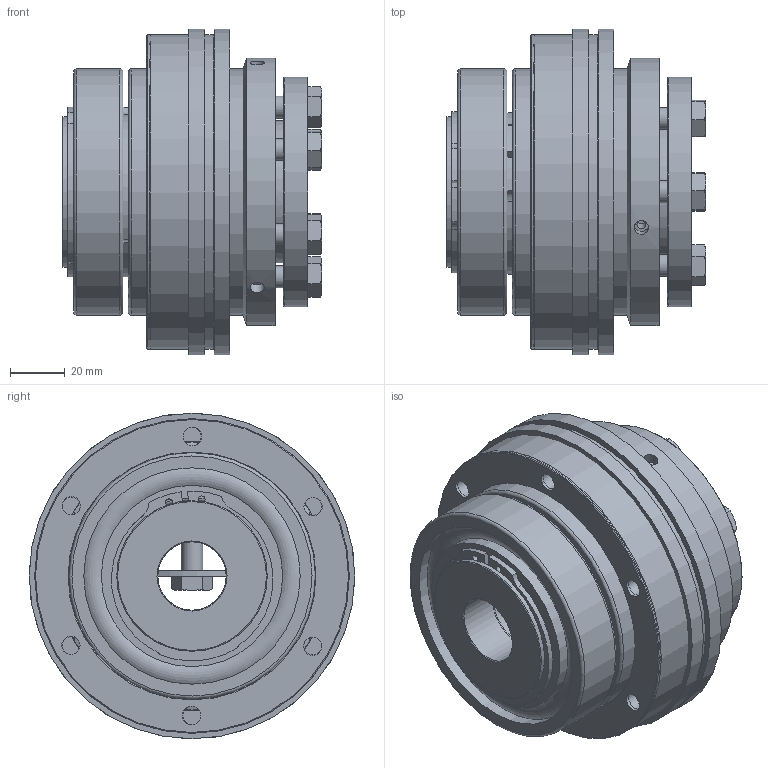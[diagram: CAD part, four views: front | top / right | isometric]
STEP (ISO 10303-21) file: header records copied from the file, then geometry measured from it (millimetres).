
FILE_DESCRIPTION( ( 'Unknown' ), '1' );
FILE_NAME( 'C:/Dokumente und Einstellungen/Sven/Desktop/hp kbk/KBK LL-I-300.stp', 'Unknown', ( 'Unknown' ), ( 'Unknown' ), 'XStep 1.0', 'Unknown', ' ' );
FILE_SCHEMA( ( 'automotive_design' ) );
Length unit declared in the file: millimetre
Products named in the file (12): Assem1; Assem2; ball_bearing_-_6011_0_01; ball_bearing_-_6011_0_02; ball_bearing_-_6011_0_03; Konusbuchse 300; Stellring 300; a_55; din_en_24017_m8x30; Kupplung LL-I-300 Grundkörper; Flansch 300; Druckring 300
Bounding box: 95 x 119 x 119 mm (x, y, z)
Volume: 1093351.4 mm3; surface area: 376219.6 mm2
Topology: 32 solids, 32 shells, 514 faces, 1092 edges, 695 vertices
Faces by surface type: plane 201, cylinder 166, cone 108, torus 39
Full cylindrical faces by diameter (mm): 2.5 x6, 3.242 x6, 5.2 x6, 6.647 x30, 8 x7, 8.5 x12, 11.63 x7, 25 x4, 52 x6, 55 x10, 66.3 x8, 76 x4, 79.1 x8, 83.5 x2, 84 x2, 90 x8, 98 x2, 98.5 x2, 115 x4, 119 x2
Entity records: 4939 total; most frequent: CARTESIAN_POINT 1102, DIRECTION 822, ORIENTED_EDGE 534, AXIS2_PLACEMENT_3D 385, EDGE_LOOP 328, EDGE_CURVE 267, FACE_OUTER_BOUND 241, VERTEX_POINT 219
